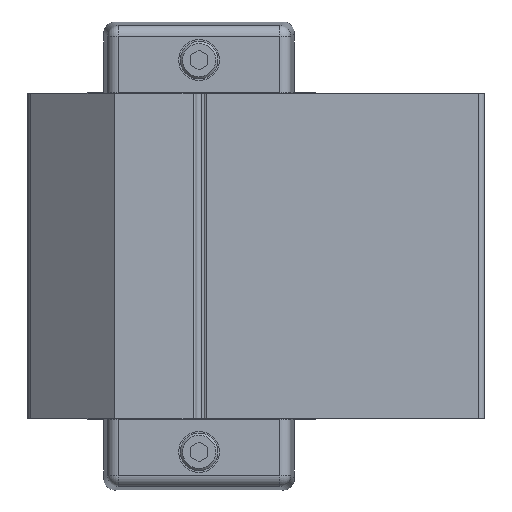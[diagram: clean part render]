
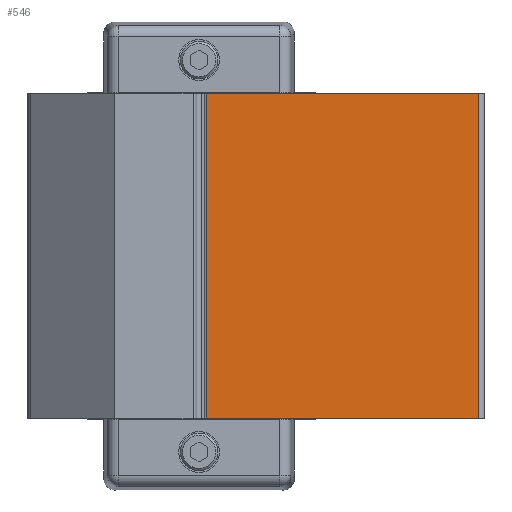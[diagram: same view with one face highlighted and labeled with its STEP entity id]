
A CAD part, left-side view. The second image highlights one B-rep face of the part: STEP entity #546.
In plain terms, the highlighted planar face has unit normal (-1, 0, 0) as drawn and (0, -1, 0) by its records, which use the part's own axes.
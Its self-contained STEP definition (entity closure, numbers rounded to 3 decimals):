
#546=ADVANCED_FACE('',(#1129),#1130,.F.);
#1129=FACE_OUTER_BOUND('',#1845,.T.);
#1130=PLANE('',#1846);
#1845=EDGE_LOOP('',(#2891,#2892,#2893,#2894));
#1846=AXIS2_PLACEMENT_3D('',#2895,#2896,#2897);
#2891=ORIENTED_EDGE('',*,*,#4712,.T.);
#2892=ORIENTED_EDGE('',*,*,#4713,.F.);
#2893=ORIENTED_EDGE('',*,*,#4695,.F.);
#2894=ORIENTED_EDGE('',*,*,#4714,.T.);
#2895=CARTESIAN_POINT('',(1.0,0.,59.8));
#2896=DIRECTION('',(0.,1.0,0.0));
#2897=DIRECTION('',(-1.0,0.,0.0));
#4695=EDGE_CURVE('',#5692,#5694,#5695,.T.);
#4712=EDGE_CURVE('',#5723,#5724,#5725,.T.);
#4713=EDGE_CURVE('',#5694,#5724,#5726,.T.);
#4714=EDGE_CURVE('',#5692,#5723,#5727,.T.);
#5692=VERTEX_POINT('',#7042);
#5694=VERTEX_POINT('',#7044);
#5695=LINE('',#7045,#7046);
#5723=VERTEX_POINT('',#7082);
#5724=VERTEX_POINT('',#7083);
#5725=LINE('',#7084,#7085);
#5726=LINE('',#7086,#7087);
#5727=LINE('',#7088,#7089);
#7042=CARTESIAN_POINT('',(1.0,0.,59.8));
#7044=CARTESIAN_POINT('',(51.0,0.,59.8));
#7045=CARTESIAN_POINT('',(1.0,0.,59.8));
#7046=VECTOR('',#8311,1.0);
#7082=CARTESIAN_POINT('',(1.0,0.,0.0));
#7083=CARTESIAN_POINT('',(51.0,0.,0.0));
#7084=CARTESIAN_POINT('',(1.0,0.,0.0));
#7085=VECTOR('',#8338,1.0);
#7086=CARTESIAN_POINT('',(51.0,0.,59.8));
#7087=VECTOR('',#8339,1.0);
#7088=CARTESIAN_POINT('',(1.0,0.,59.8));
#7089=VECTOR('',#8340,1.0);
#8311=DIRECTION('',(1.0,0.,0.0));
#8338=DIRECTION('',(1.0,0.,0.0));
#8339=DIRECTION('',(0.0,0.0,-1.0));
#8340=DIRECTION('',(0.0,0.0,-1.0));
